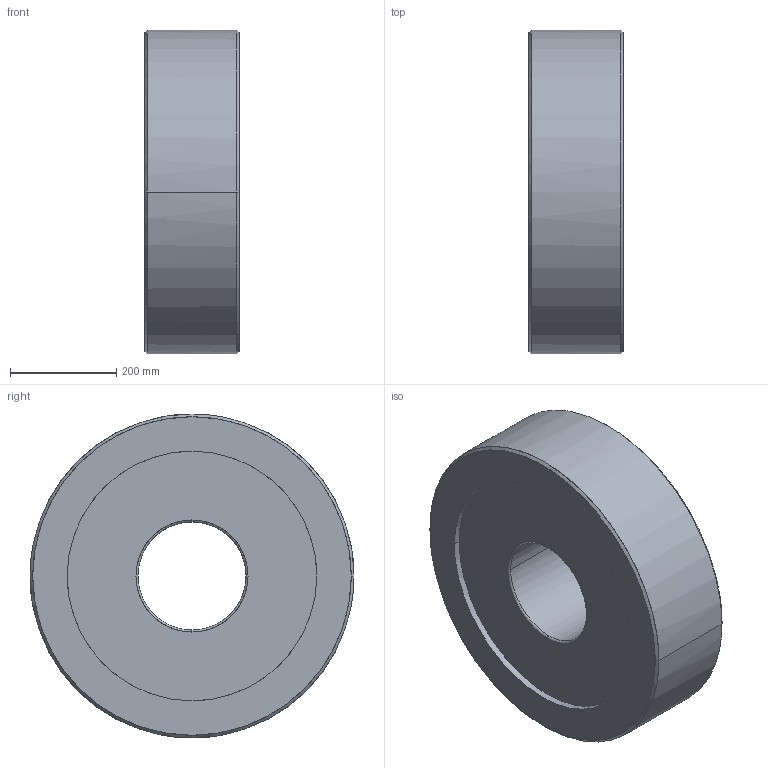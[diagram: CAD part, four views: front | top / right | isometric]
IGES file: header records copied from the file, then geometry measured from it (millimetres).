
Global section: native system: Kubotek KeyCreator; preprocessor: KCM Version 1.1.1442.0; author: KeyCreator User; organization: Self; date: 20170713.064819; units: inch
Bounding box: 177.8 x 609.6 x 609.6 mm (x, y, z)
Surface area: 980891.1 mm2 (no closed solid volume)
Topology: 0 solids, 0 shells, 20 faces, 128 edges, 128 vertices
Faces by surface type: bspline 20
